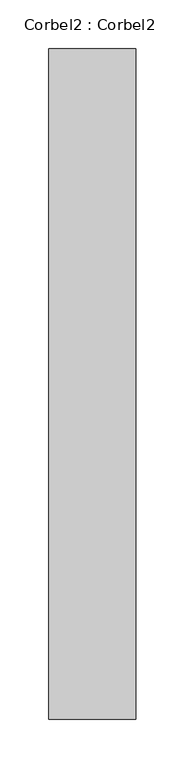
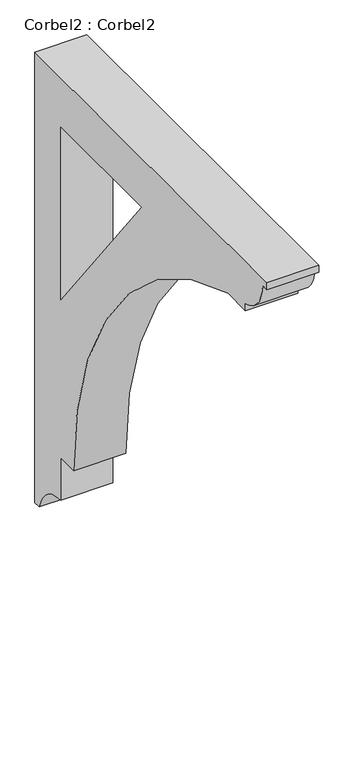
"""IFC4 building model written with IfcOpenShell, lengths in millimetres: proxy geometry, Corbel2 : Corbel2."""

from ifc_helpers import new_model, si_unit, point, frame, frame_2d, origin, place, context, project, spatial, polyline, circle_curve, trimmed, segment, composite_curve, outline, extrude, source, transform, mapped, element, save


def corbel2_corbel2_907cff46(model_context):
    return source(origin(), model_context, "Body", "SweptSolid", [
        extrude(outline(composite_curve([segment(polyline([(-342.9, 812.8), (342.9, 812.8), (342.9, 0.0), (330.2, 0.0)]), True, "CONTINUOUS"), segment(trimmed(circle_curve(frame_2d((266.7, -14.2875)), 65.0875), [point((330.2, 0.0))], [point((266.7, 50.8))], True, "CARTESIAN"), True, "CONTINUOUS"), segment(polyline([(266.7, 50.8), (266.7, 127.0), (228.6, 127.0)]), True, "CONTINUOUS"), segment(trimmed(circle_curve(frame_2d((-389.6430556, 127.0)), 618.2430556), [point((228.6, 127.0))], [point((-228.6, 723.9))], True, "CARTESIAN"), True, "CONTINUOUS"), segment(polyline([(-228.6, 723.9), (-279.4, 723.9), (-279.4, 736.6)]), True, "CONTINUOUS"), segment(trimmed(circle_curve(frame_2d((-265.1125, 800.1)), 65.0875), [point((-279.4, 736.6))], [point((-330.2, 800.1))], False, "CARTESIAN"), True, "CONTINUOUS"), segment(polyline([(-330.2, 800.1), (-342.9, 800.1), (-342.9, 812.8)]), True, "CONTINUOUS")], self_intersect=False), holes=[polyline([(266.7, 723.9), (27.9046108, 723.9), (266.7, 412.1393529), (266.7, 723.9)])]), frame((-44.45, 0.0, 0.0), z_axis=(1.0, 0.0, 0.0), x_axis=(0.0, 1.0, 0.0)), (0.0, 0.0, 1.0), 88.9),
    ])


if __name__ == "__main__":
    model = new_model("IFC4")
    model_context = context("Model", 3, world=origin())
    ifc_project = project(units=[si_unit("LENGTHUNIT", "METRE", prefix="MILLI")], contexts=[model_context])
    site = spatial("IfcSite", under=ifc_project)
    building = spatial("IfcBuilding", under=site)
    placement = place(None, origin())
    corbel2_corbel2_shape = corbel2_corbel2_907cff46(model_context)
    element("IfcBuildingElementProxy", 1, Name="Corbel2 : Corbel2", ObjectType="Corbel2 : Corbel2", at=placement, inside=building, context=model_context, shape_type="MappedRepresentation", body=[
        mapped(corbel2_corbel2_shape, transform((0.0, 0.0, 0.0), x_axis=(1.0, 0.0, 0.0), y_axis=(0.0, 1.0, 0.0), z_axis=(0.0, 0.0, 1.0))),
    ])
    save(model, "model.ifc")
